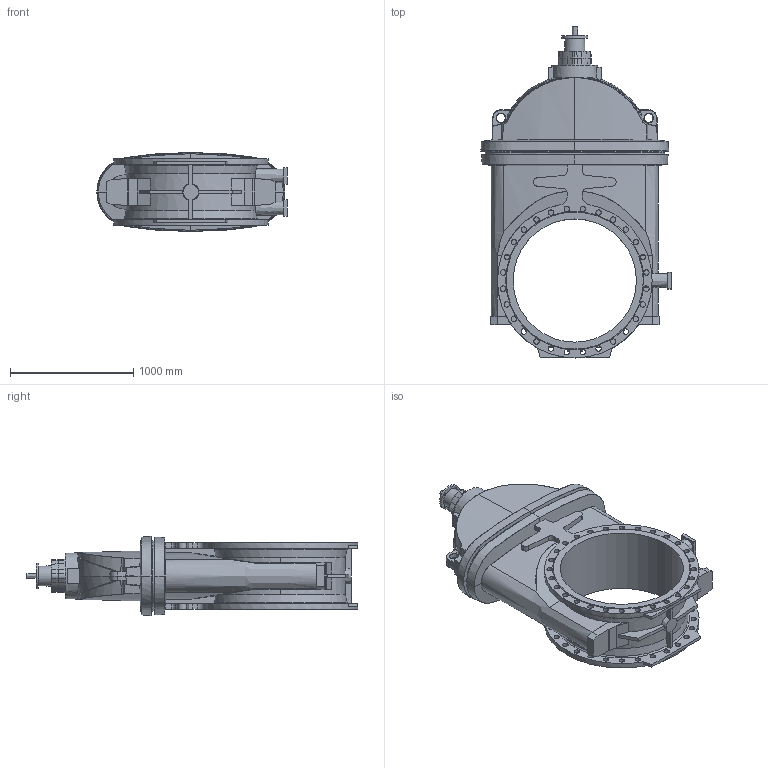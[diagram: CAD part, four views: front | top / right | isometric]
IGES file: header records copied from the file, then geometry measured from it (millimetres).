
Start section: SolidWorks IGES file using analytic representation for surfaces
Global section: file name: \\avksan2\techshare\PBM outline export from Enovia\O_06_30_DN1000_X91XXXXX_AA0.igs; native system: SolidWorks 2012; preprocessor: SolidWorks 2012; author: pbm; date: 190320.110618; units: millimetre
Bounding box: 1544.5 x 2694.75 x 642.5 mm (x, y, z)
Surface area: 11645553.2 mm2 (no closed solid volume)
Topology: 0 solids, 0 shells, 413 faces, 2426 edges, 2288 vertices
Faces by surface type: bspline 229, revolution 184
